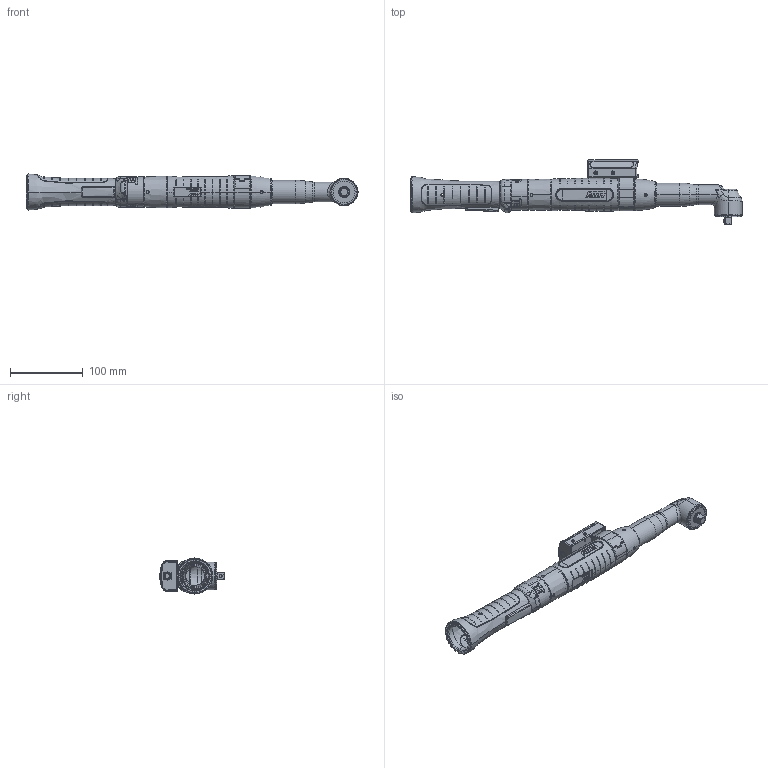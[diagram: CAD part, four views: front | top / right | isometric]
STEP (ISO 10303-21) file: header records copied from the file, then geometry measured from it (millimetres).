
FILE_DESCRIPTION (( 'STEP AP214' ), '1' );
FILE_NAME ('7900281_HCX1050WV38_Scanner.STEP', '2012-02-07T16:13:06', ( ' ' ), ( '' ), 'SwSTEP 2.0', 'SolidWorks 2009', '' );
FILE_SCHEMA (( 'AUTOMOTIVE_DESIGN' ));
Length unit declared in the file: millimetre
Products named in the file (1): 7900281_HCX1050WV38_Scanner
Bounding box: 455.7 x 88.42 x 49.46 mm (x, y, z)
Surface area: 89787.7 mm2 (no closed solid volume)
Topology: 0 solids, 61 shells, 1243 faces, 4364 edges, 3034 vertices
Faces by surface type: plane 352, cylinder 309, torus 270, bspline 229, cone 60, sphere 23
Entity records: 77247 total; most frequent: CARTESIAN_POINT 29143, DIRECTION 6868, ORIENTED_EDGE 6814, EDGE_CURVE 4339, VERTEX_POINT 3023, AXIS2_PLACEMENT_3D 2785, CIRCLE 1772, EDGE_LOOP 1385
